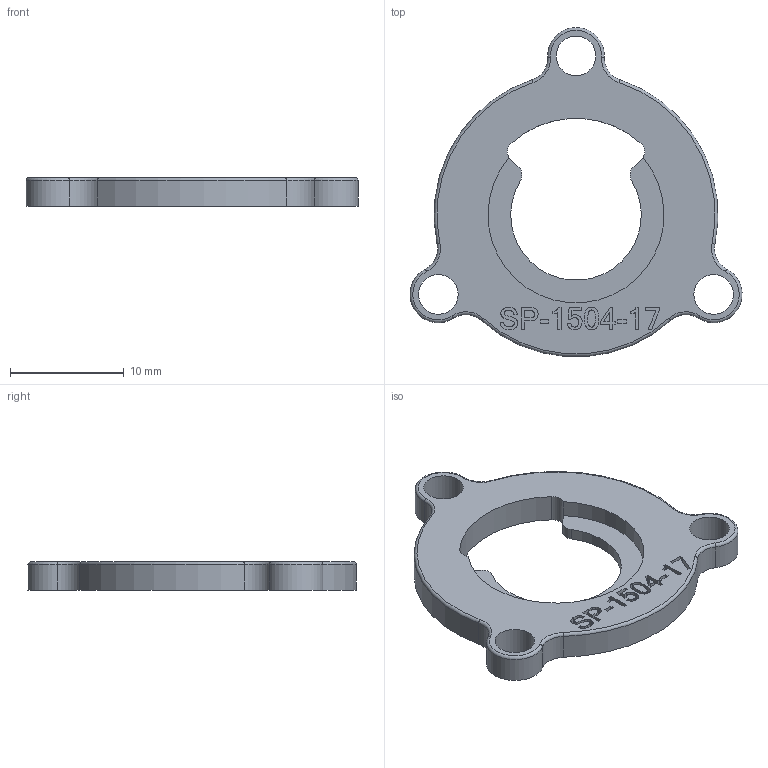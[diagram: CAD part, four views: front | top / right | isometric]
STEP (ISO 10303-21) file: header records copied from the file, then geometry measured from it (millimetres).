
FILE_DESCRIPTION(/* description */ ('Alibre Inc.'),/* implementation_level */ '2;1');
FILE_NAME(/* name */ 'export-44327544-2CD4-4722-9C7D-95A78D74AFCD',/* time_stamp */ '2020-08-19T17:24:42-05:00',/* author */ (''),/* organization */ (''),/* preprocessor_version */ 'ST-DEVELOPER v17',/* originating_system */ 'Alibre',/* authorisation */ '');
FILE_SCHEMA (('AUTOMOTIVE_DESIGN'));
Length unit declared in the file: millimetre
Bounding box: 29.24 x 28.95 x 2.5 mm (x, y, z)
Volume: 849.8 mm3; surface area: 1244.8 mm2
Topology: 1 solids, 2 shells, 175 faces, 462 edges, 304 vertices
Faces by surface type: plane 76, bspline 64, cylinder 23, torus 12
Full cylindrical faces by diameter (mm): 0.304 x1, 3.5 x3
Entity records: 5368 total; most frequent: CARTESIAN_POINT 1506, ORIENTED_EDGE 916, DIRECTION 525, EDGE_CURVE 458, VERTEX_POINT 304, VECTOR 258, LINE 258, EDGE_LOOP 200
